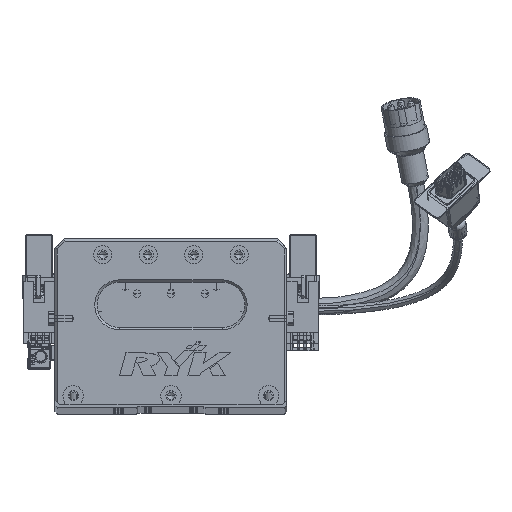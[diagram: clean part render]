
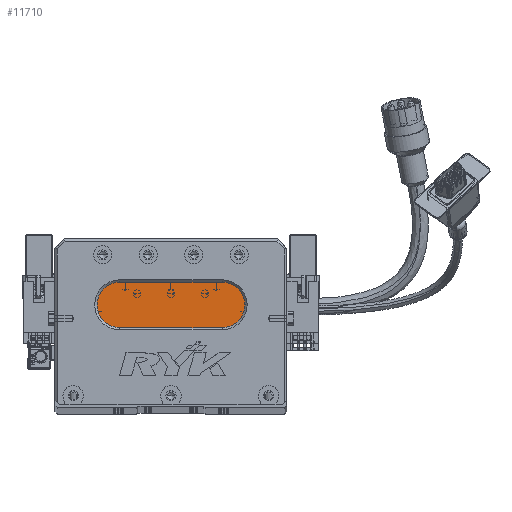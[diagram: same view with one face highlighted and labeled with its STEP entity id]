
A CAD part, top view. The second image highlights one B-rep face of the part: STEP entity #11710.
In plain terms, the highlighted planar face has unit normal (0, 0, 1) as drawn and (0, 0, -1) by its records, which use the part's own axes.
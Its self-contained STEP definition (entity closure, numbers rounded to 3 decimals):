
#918 = CARTESIAN_POINT ( 'NONE',  ( 28.5, 54., 13. ) ) ;
#3626 = CARTESIAN_POINT ( 'NONE',  ( 73.5, 34., 13. ) ) ;
#4430 = ORIENTED_EDGE ( 'NONE', *, *, #15802, .T. ) ;
#4956 = CIRCLE ( 'NONE', #34259, 10. ) ;
#8786 = DIRECTION ( 'NONE',  ( 0., 0., -1. ) ) ;
#9847 = ORIENTED_EDGE ( 'NONE', *, *, #25289, .T. ) ;
#10112 = EDGE_CURVE ( 'NONE', #44621, #74232, #32768, .T. ) ;
#11365 = VERTEX_POINT ( 'NONE', #44921 ) ;
#11710 = ADVANCED_FACE ( 'NONE', ( #24828 ), #49311, .T. ) ;
#12730 = DIRECTION ( 'NONE',  ( -1., 0., 0. ) ) ;
#13774 = DIRECTION ( 'NONE',  ( 0., 0., -1. ) ) ;
#15802 = EDGE_CURVE ( 'NONE', #74232, #47288, #46632, .T. ) ;
#16173 = LINE ( 'NONE', #48013, #50509 ) ;
#17071 = DIRECTION ( 'NONE',  ( -1., 0., 0. ) ) ;
#20456 = CARTESIAN_POINT ( 'NONE',  ( 73.5, 44., 13. ) ) ;
#21120 = EDGE_LOOP ( 'NONE', ( #4430, #48354, #60501, #9847, #73892 ) ) ;
#23137 = VERTEX_POINT ( 'NONE', #68608 ) ;
#24828 = FACE_OUTER_BOUND ( 'NONE', #21120, .T. ) ;
#25289 = EDGE_CURVE ( 'NONE', #11365, #44621, #4956, .T. ) ;
#27423 = DIRECTION ( 'NONE',  ( 1., 0., 0. ) ) ;
#28998 = DIRECTION ( 'NONE',  ( -1., 0., 0. ) ) ;
#31368 = CARTESIAN_POINT ( 'NONE',  ( 73.5, 44., 13. ) ) ;
#32768 = LINE ( 'NONE', #62221, #68705 ) ;
#34259 = AXIS2_PLACEMENT_3D ( 'NONE', #58575, #35459, #17071 ) ;
#35459 = DIRECTION ( 'NONE',  ( 0., 0., -1. ) ) ;
#36567 = CARTESIAN_POINT ( 'NONE',  ( 73.5, 54., 13. ) ) ;
#36774 = AXIS2_PLACEMENT_3D ( 'NONE', #31368, #13774, #42545 ) ;
#39750 = AXIS2_PLACEMENT_3D ( 'NONE', #20456, #8786, #61697 ) ;
#40909 = AXIS2_PLACEMENT_3D ( 'NONE', #63793, #64548, #28998 ) ;
#42545 = DIRECTION ( 'NONE',  ( -1., 0., 0. ) ) ;
#44621 = VERTEX_POINT ( 'NONE', #918 ) ;
#44921 = CARTESIAN_POINT ( 'NONE',  ( 18.5, 44., 13. ) ) ;
#46632 = CIRCLE ( 'NONE', #39750, 10. ) ;
#47288 = VERTEX_POINT ( 'NONE', #3626 ) ;
#48013 = CARTESIAN_POINT ( 'NONE',  ( 73.5, 34., 13. ) ) ;
#48354 = ORIENTED_EDGE ( 'NONE', *, *, #56174, .T. ) ;
#49311 = PLANE ( 'NONE',  #36774 ) ;
#50509 = VECTOR ( 'NONE', #12730, 1000. ) ;
#55713 = EDGE_CURVE ( 'NONE', #23137, #11365, #70956, .T. ) ;
#56174 = EDGE_CURVE ( 'NONE', #47288, #23137, #16173, .T. ) ;
#58575 = CARTESIAN_POINT ( 'NONE',  ( 28.5, 44., 13. ) ) ;
#60501 = ORIENTED_EDGE ( 'NONE', *, *, #55713, .T. ) ;
#61697 = DIRECTION ( 'NONE',  ( -1., 0., 0. ) ) ;
#62221 = CARTESIAN_POINT ( 'NONE',  ( 73.5, 54., 13. ) ) ;
#63793 = CARTESIAN_POINT ( 'NONE',  ( 28.5, 44., 13. ) ) ;
#64548 = DIRECTION ( 'NONE',  ( 0., 0., -1. ) ) ;
#68608 = CARTESIAN_POINT ( 'NONE',  ( 28.5, 34., 13. ) ) ;
#68705 = VECTOR ( 'NONE', #27423, 1000. ) ;
#70956 = CIRCLE ( 'NONE', #40909, 10. ) ;
#73892 = ORIENTED_EDGE ( 'NONE', *, *, #10112, .T. ) ;
#74232 = VERTEX_POINT ( 'NONE', #36567 ) ;
